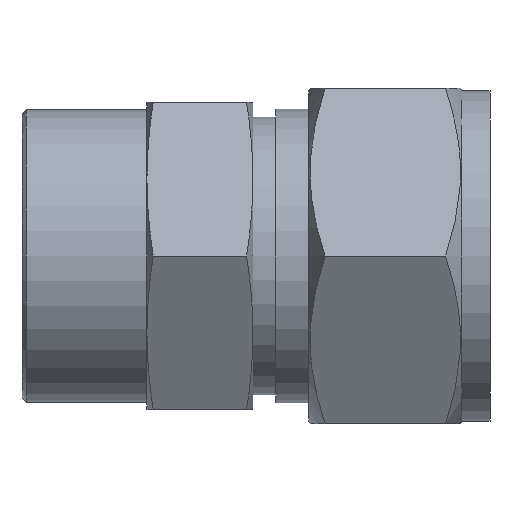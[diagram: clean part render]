
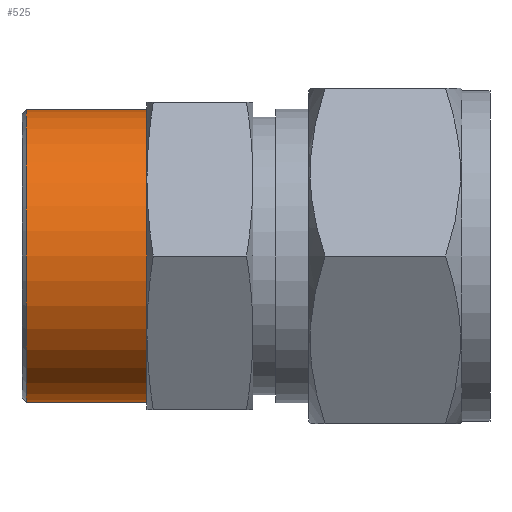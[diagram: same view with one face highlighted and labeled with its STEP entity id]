
A CAD part, front view. The second image highlights one B-rep face of the part: STEP entity #525.
In plain terms, the highlighted cylindrical face has radius 16.65 mm (diameter 33.3 mm), a partial arc.
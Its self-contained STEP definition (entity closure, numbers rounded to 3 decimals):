
#113 = VERTEX_POINT ( 'NONE', #565 ) ;
#160 = EDGE_CURVE ( 'NONE', #113, #313, #850, .T. ) ;
#240 = EDGE_CURVE ( 'NONE', #452, #434, #1004, .T. ) ;
#313 = VERTEX_POINT ( 'NONE', #1164 ) ;
#434 = VERTEX_POINT ( 'NONE', #1405 ) ;
#452 = VERTEX_POINT ( 'NONE', #1427 ) ;
#524 = EDGE_CURVE ( 'NONE', #113, #452, #1657, .T. ) ;
#525 = ADVANCED_FACE ( 'NONE', ( #1687 ), #1721, .T. ) ;
#526 = EDGE_LOOP ( 'NONE', ( #527, #528, #529, #530 ) ) ;
#527 = ORIENTED_EDGE ( 'NONE', *, *, #160, .F. ) ;
#528 = ORIENTED_EDGE ( 'NONE', *, *, #524, .T. ) ;
#529 = ORIENTED_EDGE ( 'NONE', *, *, #240, .T. ) ;
#530 = ORIENTED_EDGE ( 'NONE', *, *, #531, .T. ) ;
#531 = EDGE_CURVE ( 'NONE', #434, #313, #1724, .T. ) ;
#565 = CARTESIAN_POINT ( 'NONE',  ( -13.7, 0., 16.65 ) ) ;
#847 = DIRECTION ( 'NONE',  ( 1., 0., 0. ) ) ;
#848 = VECTOR ( 'NONE', #847, 1000. ) ;
#849 = CARTESIAN_POINT ( 'NONE',  ( -14.2, 0., 16.65 ) ) ;
#850 = LINE ( 'NONE', #849, #848 ) ;
#1001 = DIRECTION ( 'NONE',  ( 1., 0., 0. ) ) ;
#1002 = VECTOR ( 'NONE', #1001, 1000. ) ;
#1003 = CARTESIAN_POINT ( 'NONE',  ( -14.2, 0., -16.65 ) ) ;
#1004 = LINE ( 'NONE', #1003, #1002 ) ;
#1164 = CARTESIAN_POINT ( 'NONE',  ( 0., 0., 16.65 ) ) ;
#1405 = CARTESIAN_POINT ( 'NONE',  ( 0., 0., -16.65 ) ) ;
#1427 = CARTESIAN_POINT ( 'NONE',  ( -13.7, 0., -16.65 ) ) ;
#1575 = CARTESIAN_POINT ( 'NONE',  ( -13.7, 0., 0. ) ) ;
#1639 = DIRECTION ( 'NONE',  ( 1., 0., 0. ) ) ;
#1640 = AXIS2_PLACEMENT_3D ( 'NONE', #1575, #1639, #1686 ) ;
#1654 = DIRECTION ( 'NONE',  ( 1., 0., 0. ) ) ;
#1655 = CARTESIAN_POINT ( 'NONE',  ( -14.2, 0., 0. ) ) ;
#1656 = AXIS2_PLACEMENT_3D ( 'NONE', #1655, #1654, #1725 ) ;
#1657 = CIRCLE ( 'NONE', #1640, 16.65 ) ;
#1666 = DIRECTION ( 'NONE',  ( 0., 0., -1. ) ) ;
#1667 = DIRECTION ( 'NONE',  ( -1., 0., 0. ) ) ;
#1686 = DIRECTION ( 'NONE',  ( 0., 0., 1. ) ) ;
#1687 = FACE_OUTER_BOUND ( 'NONE', #526, .T. ) ;
#1721 = CYLINDRICAL_SURFACE ( 'NONE', #1656, 16.65 ) ;
#1722 = CARTESIAN_POINT ( 'NONE',  ( 0., 0., 0. ) ) ;
#1723 = AXIS2_PLACEMENT_3D ( 'NONE', #1722, #1667, #1666 ) ;
#1724 = CIRCLE ( 'NONE', #1723, 16.65 ) ;
#1725 = DIRECTION ( 'NONE',  ( 0., 0., -1. ) ) ;
